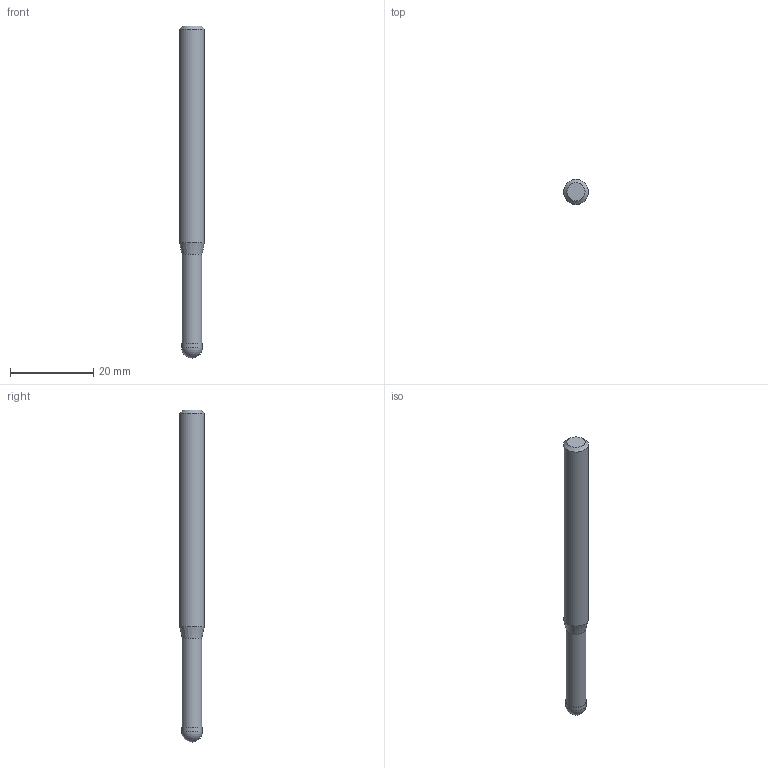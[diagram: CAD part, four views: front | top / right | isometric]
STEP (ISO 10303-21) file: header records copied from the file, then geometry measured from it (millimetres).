
FILE_DESCRIPTION((''),'2;1');
FILE_NAME('C:\Users\nsx150\AppData\Local\Temp\Mastercam 2021\EUJSUNXURU\TEMP.step','2021-04-22T10:23:04',(''),(''),'STEP Write','Mastercam 2021 ... CNC Software, Inc.','');
FILE_SCHEMA(('AUTOMOTIVE_DESIGN'));
Length unit declared in the file: millimetre
Products named in the file (1): None
Bounding box: 6 x 6 x 80 mm (x, y, z)
Volume: 1976.1 mm3; surface area: 1468 mm2
Topology: 2 solids, 2 shells, 9 faces, 14 edges, 8 vertices
Faces by surface type: plane 3, cylinder 3, cone 2, sphere 1
Full cylindrical faces by diameter (mm): 4.8 x1, 5 x1, 6 x1
Entity records: 211 total; most frequent: DIRECTION 36, CARTESIAN_POINT 25, AXIS2_PLACEMENT_3D 18, ORIENTED_EDGE 14, EDGE_LOOP 14, STYLED_ITEM 12, ADVANCED_FACE 9, FACE_BOUND 8
